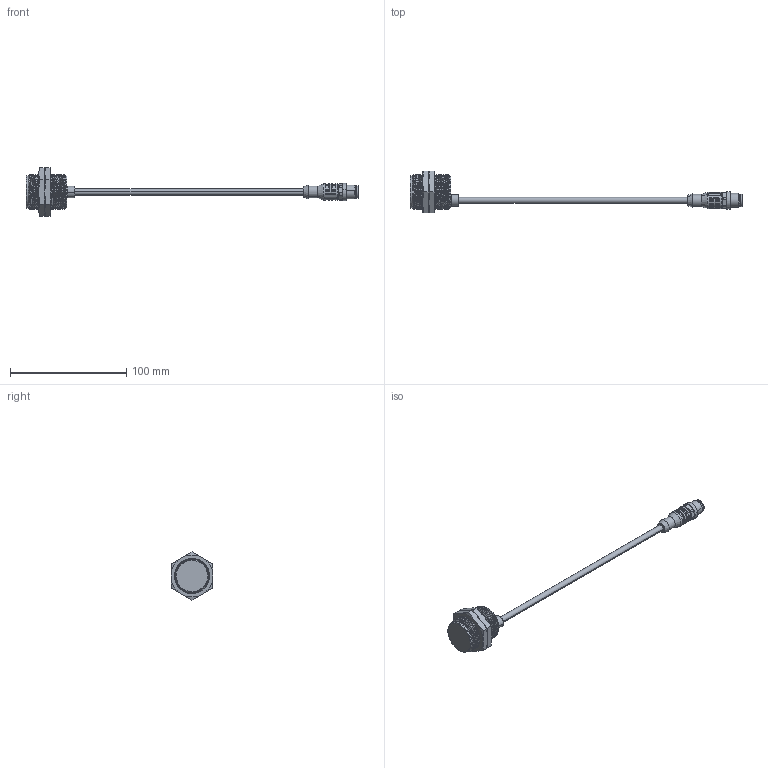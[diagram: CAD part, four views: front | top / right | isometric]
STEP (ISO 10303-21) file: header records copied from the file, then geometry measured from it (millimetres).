
FILE_DESCRIPTION((''),'2;1');
FILE_NAME('ASM0001_ASM','2025-01-08T13:40:42',('Rudolf.Poettker'),(''),'CREO PARAMETRIC BY PTC INC, 2022124','CREO PARAMETRIC BY PTC INC, 2022124','');
FILE_SCHEMA(('AUTOMOTIVE_DESIGN { 1 0 10303 214 1 1 1 1 }'));
Length unit declared in the file: millimetre
Products named in the file (3): PRT0001; 4139100185; ASM0001_ASM
Assembly tree (2 placements, depth 2):
  ASM0001_ASM
    PRT0001
    4139100185
Bounding box: 285 x 36 x 41.57 mm (x, y, z)
Volume: 37613.3 mm3; surface area: 13427.4 mm2
Topology: 2 solids, 2 shells, 456 faces, 1173 edges, 740 vertices
Faces by surface type: plane 122, cylinder 120, extrusion 66, bspline 48, cone 45, torus 39, sphere 16
Entity records: 38864 total; most frequent: CARTESIAN_POINT 22748, ORIENTED_EDGE 2310, DIRECTION 1864, PRESENTATION_STYLE_ASSIGNMENT 1293, STYLED_ITEM 1168, CURVE_STYLE 1166, EDGE_CURVE 1155, VERTEX_POINT 739
